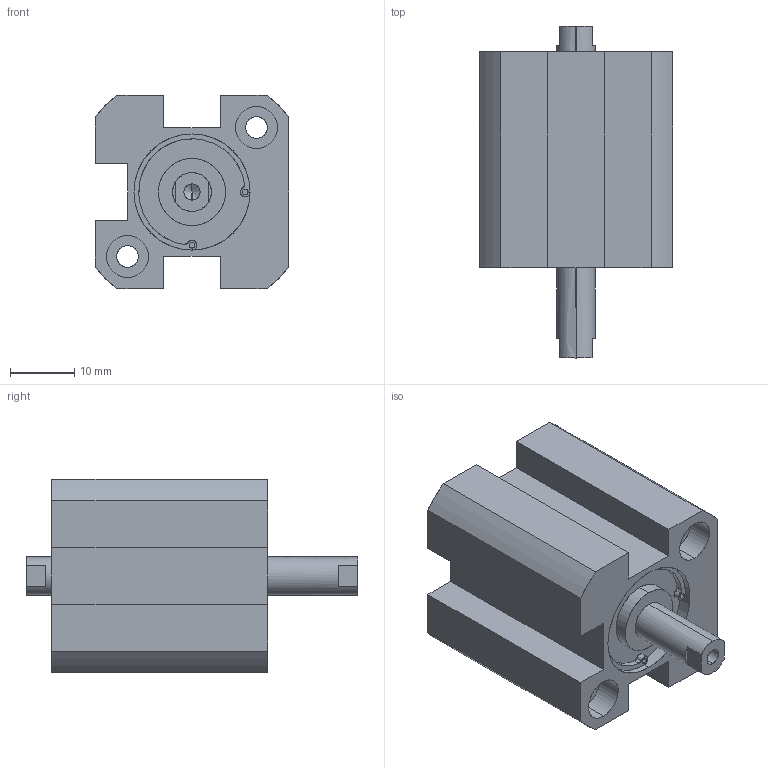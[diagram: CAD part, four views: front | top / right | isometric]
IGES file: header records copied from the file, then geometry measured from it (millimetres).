
Start section: SolidWorks IGES file using analytic representation for surfaces
Global section: file name: C:\Users\Toshiba\Desktop\XC#7-16-10.IGS; native system: SolidWorks 2014; preprocessor: SolidWorks 2014; author: Toshiba; date: 160523.161924; units: millimetre
Bounding box: 30 x 51.5 x 30 mm (x, y, z)
Surface area: 8239 mm2 (no closed solid volume)
Topology: 0 solids, 0 shells, 108 faces, 1704 edges, 1696 vertices
Faces by surface type: revolution 66, bspline 42
